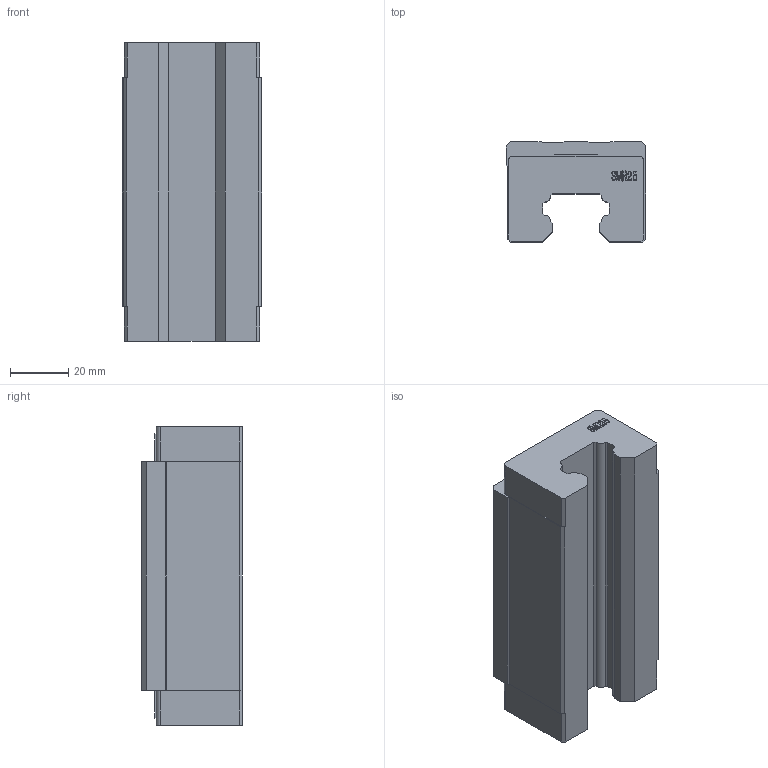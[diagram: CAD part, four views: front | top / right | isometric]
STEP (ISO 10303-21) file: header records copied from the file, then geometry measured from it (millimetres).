
FILE_DESCRIPTION (( 'STEP AP203' ), '1' );
FILE_NAME ('SMH25BL.stp', '2019-09-25T00:12:27', ( 'pgos' ), ( '' ), 'SwSTEP 2.0', 'SolidWorks 2014', '' );
FILE_SCHEMA (( 'CONFIG_CONTROL_DESIGN' ));
Length unit declared in the file: millimetre
Products named in the file (1): SMH25BL
Bounding box: 48 x 34.5 x 102.6 mm (x, y, z)
Volume: 127245.2 mm3; surface area: 23622 mm2
Topology: 1 solids, 1 shells, 214 faces, 617 edges, 406 vertices
Faces by surface type: plane 135, bspline 55, cylinder 16, cone 8
Entity records: 9292 total; most frequent: CARTESIAN_POINT 3981, ORIENTED_EDGE 1218, DIRECTION 855, EDGE_CURVE 609, LINE 463, VECTOR 463, VERTEX_POINT 406, EDGE_LOOP 223
